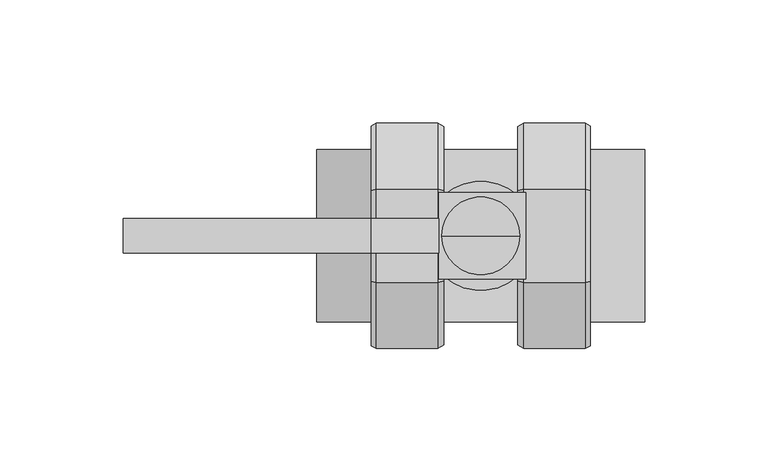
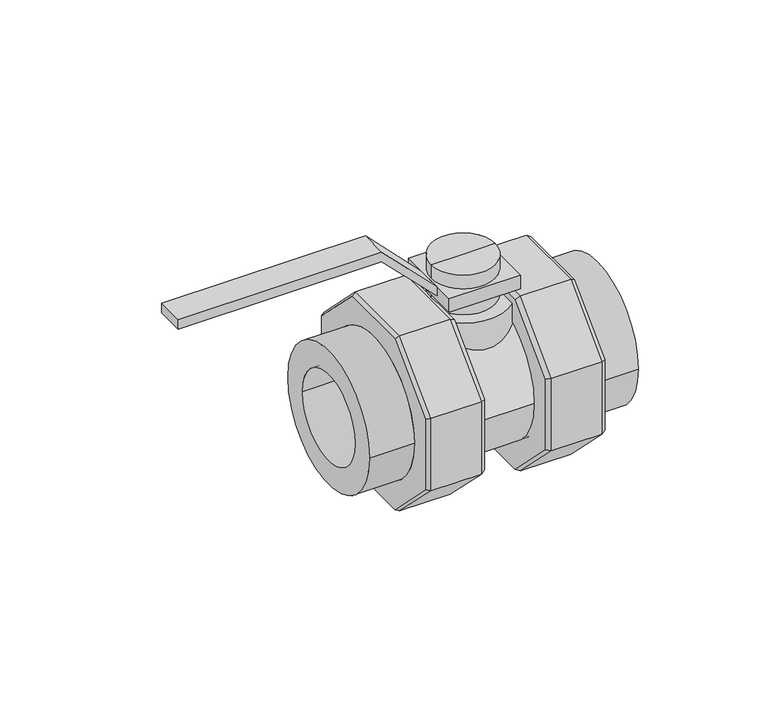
"""IFC4 building model written with IfcOpenShell, lengths in millimetres: valve geometry, EGB_VASEN_ PPR_Valvula de bola doble union WXR800 : Válvula de bola doble unión WXR800."""

from ifc_helpers import new_model, si_unit, point, frame, origin, origin_2d, place, context, project, spatial, polyline, circle_curve, trimmed, segment, composite_curve, outline, extrude, source, transform, mapped, element, save
from ifc_brep_helpers import plane_surface, cylinder_surface, revolved_surface, advanced_brep


def valve_12091b4a(model_context):
    return source(origin(), model_context, "Body", "SolidModel", [
        advanced_brep(
        [(42.3333333, 18.9502705, 45.75), (42.3333333, 45.75, 18.9502705), (17.4084379, 45.75, 18.9502705), (17.4084379, 18.9502705, 45.75), (17.4084379, -18.9502705, 45.75), (42.3333333, -18.9502705, 45.75), (42.3333333, -18.9502705, -45.75), (42.3333333, -45.75, -18.9502705), (17.4084379, -45.75, -18.9502705), (17.4084379, -18.9502705, -45.75), (17.4084379, 18.9502705, -45.75), (42.3333333, 18.9502705, -45.75), (17.4084379, -45.75, 18.9502705), (42.3333333, -45.75, 18.9502705), (17.4084379, 45.75, -18.9502705), (42.3333333, 45.75, -18.9502705), (44.3333333, 18.4719779, 44.5952995), (44.3333333, -18.4719779, 44.5952995), (44.3333333, -44.5952995, 18.4719779), (44.3333333, -44.5952995, -18.4719779), (44.3333333, -18.4719779, -44.5952995), (44.3333333, 18.4719779, -44.5952995), (44.3333333, 44.5952995, -18.4719779), (44.3333333, 44.5952995, 18.4719779), (44.3333333, 35.0, 0.0), (44.3333333, -35.0, 0.0), (14.9589481, 44.3357864, 18.364484), (14.9589481, 44.3357864, -18.364484), (14.9589481, 18.364484, -44.3357864), (14.9589481, -18.364484, -44.3357864), (14.9589481, -44.3357864, -18.364484), (14.9589481, -44.3357864, 18.364484), (14.9589481, -18.364484, 44.3357864), (14.9589481, 18.364484, 44.3357864), (14.9589481, -35.0, 0.0), (14.9589481, 35.0, 0.0)],
        [
            (0, 1),
            (1, 2),
            (2, 3),
            (3, 0),
            (3, 4),
            (4, 5),
            (5, 0),
            (6, 7),
            (7, 8),
            (8, 9),
            (9, 6),
            (9, 10),
            (10, 11),
            (11, 6),
            (4, 12),
            (12, 13),
            (13, 5),
            (12, 8),
            (7, 13),
            (10, 14),
            (14, 15),
            (15, 11),
            (16, 17),
            (17, 18),
            (18, 19),
            (19, 20),
            (20, 21),
            (21, 22),
            (22, 23),
            (23, 16),
            (24, 25, circle_curve(frame((44.3333333, 0.0, 0.0), z_axis=(-1.0, 0.0, 0.0), x_axis=(0.0, -1.0, 0.0)), 35.0)),
            (25, 24, circle_curve(frame((44.3333333, 0.0, 0.0), z_axis=(-1.0, 0.0, 0.0), x_axis=(0.0, -1.0, 0.0)), 35.0)),
            (14, 2),
            (1, 15),
            (26, 27),
            (27, 28),
            (28, 29),
            (29, 30),
            (30, 31),
            (31, 32),
            (32, 33),
            (33, 26),
            (34, 35, circle_curve(frame((14.9589481, 0.0, 0.0), z_axis=(1.0, 0.0, 0.0), x_axis=(0.0, -1.0, 0.0)), 35.0)),
            (35, 34, circle_curve(frame((14.9589481, 0.0, 0.0), z_axis=(1.0, 0.0, 0.0), x_axis=(0.0, -1.0, 0.0)), 35.0)),
            (2, 26),
            (33, 3),
            (23, 1),
            (0, 16),
            (32, 4),
            (5, 17),
            (8, 30),
            (29, 9),
            (19, 7),
            (6, 20),
            (28, 10),
            (11, 21),
            (31, 12),
            (13, 18),
            (27, 14),
            (15, 22),
            (25, 34),
            (35, 24),
        ],
        [
            plane_surface(frame((44.3333333, 45.75, 18.9502705), z_axis=(0.0, 0.7071067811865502, 0.7071067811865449), x_axis=(0.0, -0.7071067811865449, 0.7071067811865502))),
            plane_surface(frame((44.3333333, 18.9502705, 45.75), z_axis=(0.0, 0.0, 1.0), x_axis=(0.0, -1.0, 0.0))),
            plane_surface(frame((44.3333333, -45.75, -18.9502705), z_axis=(0.0, -0.7071067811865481, -0.707106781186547), x_axis=(0.0, 0.707106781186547, -0.7071067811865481))),
            plane_surface(frame((44.3333333, -18.9502705, -45.75), z_axis=(0.0, 0.0, -1.0), x_axis=(0.0, 1.0, 0.0))),
            plane_surface(frame((44.3333333, -18.9502705, 45.75), z_axis=(0.0, -0.7071067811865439, 0.7071067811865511), x_axis=(0.0, -0.7071067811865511, -0.7071067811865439))),
            plane_surface(frame((44.3333333, -45.75, 18.9502705), z_axis=(0.0, -1.0, 0.0), x_axis=(0.0, 0.0, -1.0))),
            plane_surface(frame((44.3333333, 18.9502705, -45.75), z_axis=(0.0, 0.7071067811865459, -0.7071067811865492), x_axis=(0.0, 0.7071067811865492, 0.7071067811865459))),
            plane_surface(frame((44.3333333, 0.0, 0.0), z_axis=(1.0, 0.0, 0.0), x_axis=(0.0, 0.0, 1.0))),
            plane_surface(frame((44.3333333, 45.75, -18.9502705), z_axis=(0.0, 1.0, 0.0), x_axis=(0.0, 0.0, 1.0))),
            plane_surface(frame((14.9589481, 45.75, -18.9502705), z_axis=(-1.0, 0.0, 0.0), x_axis=(0.0, 0.0, 1.0))),
            plane_surface(frame((14.9589481, 44.3357864, 18.364484), z_axis=(-0.49999999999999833, 0.6123724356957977, 0.6123724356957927), x_axis=(0.0, -0.7071067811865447, 0.7071067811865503))),
            plane_surface(frame((42.3333333, 45.75, 18.9502705), z_axis=(0.49999999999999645, 0.6123724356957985, 0.6123724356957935), x_axis=(0.0, -0.7071067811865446, 0.7071067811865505))),
            plane_surface(frame((14.9589481, 18.364484, 44.3357864), z_axis=(-0.4999999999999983, 0.0, 0.8660254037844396), x_axis=(0.0, -1.0, 0.0))),
            plane_surface(frame((42.3333333, 18.9502705, 45.75), z_axis=(0.4999999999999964, 0.0, 0.8660254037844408), x_axis=(0.0, -1.0, 0.0))),
            plane_surface(frame((14.9589481, -44.3357864, -18.364484), z_axis=(-0.49999999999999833, -0.6123724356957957, -0.6123724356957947), x_axis=(0.0, 0.7071067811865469, -0.7071067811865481))),
            plane_surface(frame((42.3333333, -45.75, -18.9502705), z_axis=(0.49999999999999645, -0.6123724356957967, -0.6123724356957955), x_axis=(0.0, 0.7071067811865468, -0.7071067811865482))),
            plane_surface(frame((14.9589481, -18.364484, -44.3357864), z_axis=(-0.49999999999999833, 0.0, -0.8660254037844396), x_axis=(0.0, 1.0, 0.0))),
            plane_surface(frame((42.3333333, -18.9502705, -45.75), z_axis=(0.49999999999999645, 0.0, -0.8660254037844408), x_axis=(0.0, 1.0, 0.0))),
            plane_surface(frame((14.9589481, -18.364484, 44.3357864), z_axis=(-0.4999999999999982, -0.6123724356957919, 0.6123724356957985), x_axis=(0.0, -0.7071067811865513, -0.7071067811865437))),
            plane_surface(frame((42.3333333, -18.9502705, 45.75), z_axis=(0.4999999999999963, -0.6123724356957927, 0.6123724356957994), x_axis=(0.0, -0.7071067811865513, -0.7071067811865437))),
            plane_surface(frame((14.9589481, -44.3357864, 18.364484), z_axis=(-0.49999999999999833, -0.8660254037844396, 0.0), x_axis=(0.0, 0.0, -1.0))),
            plane_surface(frame((42.3333333, -45.75, 18.9502705), z_axis=(0.49999999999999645, -0.8660254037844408, 0.0), x_axis=(0.0, 0.0, -1.0))),
            plane_surface(frame((14.9589481, 18.364484, -44.3357864), z_axis=(-0.49999999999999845, 0.6123724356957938, -0.6123724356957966), x_axis=(0.0, 0.7071067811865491, 0.7071067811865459))),
            plane_surface(frame((42.3333333, 18.9502705, -45.75), z_axis=(0.49999999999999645, 0.6123724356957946, -0.6123724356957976), x_axis=(0.0, 0.7071067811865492, 0.7071067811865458))),
            plane_surface(frame((14.9589481, 44.3357864, -18.364484), z_axis=(-0.49999999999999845, 0.8660254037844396, 0.0), x_axis=(0.0, 0.0, 1.0))),
            plane_surface(frame((42.3333333, 45.75, -18.9502705), z_axis=(0.4999999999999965, 0.8660254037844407, 0.0), x_axis=(0.0, 0.0, 1.0))),
            revolved_surface(polyline([(14.9589481, -35.0, 0.0), (44.3333333, -35.0, 0.0)]), (44.3333333, 0.0, 0.0), (-1.0, 0.0, 0.0)),
        ],
        [
            (0, [[1, 2, 3, 4]]),
            (1, [[5, 6, 7, -4]]),
            (2, [[8, 9, 10, 11]]),
            (3, [[12, 13, 14, -11]]),
            (4, [[15, 16, 17, -6]]),
            (5, [[18, -9, 19, -16]]),
            (6, [[20, 21, 22, -13]]),
            (7, [[23, 24, 25, 26, 27, 28, 29, 30], [31, 32]]),
            (8, [[33, -2, 34, -21]]),
            (9, [[35, 36, 37, 38, 39, 40, 41, 42], [43, 44]]),
            (10, [[-3, 45, -42, 46]]),
            (11, [[-30, 47, -1, 48]]),
            (12, [[-41, 49, -5, -46]]),
            (13, [[-7, 50, -23, -48]]),
            (14, [[-10, 51, -38, 52]]),
            (15, [[-26, 53, -8, 54]]),
            (16, [[-37, 55, -12, -52]]),
            (17, [[-14, 56, -27, -54]]),
            (18, [[-40, 57, -15, -49]]),
            (19, [[-17, 58, -24, -50]]),
            (20, [[-18, -57, -39, -51]]),
            (21, [[-25, -58, -19, -53]]),
            (22, [[-36, 59, -20, -55]]),
            (23, [[-22, 60, -28, -56]]),
            (24, [[-33, -59, -35, -45]]),
            (25, [[-29, -60, -34, -47]]),
            (26, [[-32, 61, -44, 62]]),
            (26, [[-43, -61, -31, -62]]),
        ],
    ),
        advanced_brep(
        [(-42.3333333, 18.9502705, 45.75), (-17.4084379, 18.9502705, 45.75), (-17.4084379, 45.75, 18.9502705), (-42.3333333, 45.75, 18.9502705), (-42.3333333, -18.9502705, 45.75), (-17.4084379, -18.9502705, 45.75), (-42.3333333, -18.9502705, -45.75), (-17.4084379, -18.9502705, -45.75), (-17.4084379, -45.75, -18.9502705), (-42.3333333, -45.75, -18.9502705), (-42.3333333, 18.9502705, -45.75), (-17.4084379, 18.9502705, -45.75), (-42.3333333, -45.75, 18.9502705), (-17.4084379, -45.75, 18.9502705), (-42.3333333, 45.75, -18.9502705), (-17.4084379, 45.75, -18.9502705), (-44.3333333, 18.4719779, 44.5952995), (-44.3333333, 44.5952995, 18.4719779), (-44.3333333, 44.5952995, -18.4719779), (-44.3333333, 18.4719779, -44.5952995), (-44.3333333, -18.4719779, -44.5952995), (-44.3333333, -44.5952995, -18.4719779), (-44.3333333, -44.5952995, 18.4719779), (-44.3333333, -18.4719779, 44.5952995), (-44.3333333, 35.0, 0.0), (-44.3333333, -35.0, 0.0), (-14.9589481, 44.3357864, 18.364484), (-14.9589481, 18.364484, 44.3357864), (-14.9589481, -18.364484, 44.3357864), (-14.9589481, -44.3357864, 18.364484), (-14.9589481, -44.3357864, -18.364484), (-14.9589481, -18.364484, -44.3357864), (-14.9589481, 18.364484, -44.3357864), (-14.9589481, 44.3357864, -18.364484), (-14.9589481, -35.0, 0.0), (-14.9589481, 35.0, 0.0)],
        [
            (0, 1),
            (1, 2),
            (2, 3),
            (3, 0),
            (0, 4),
            (4, 5),
            (5, 1),
            (6, 7),
            (7, 8),
            (8, 9),
            (9, 6),
            (6, 10),
            (10, 11),
            (11, 7),
            (4, 12),
            (12, 13),
            (13, 5),
            (12, 9),
            (8, 13),
            (10, 14),
            (14, 15),
            (15, 11),
            (16, 17),
            (17, 18),
            (18, 19),
            (19, 20),
            (20, 21),
            (21, 22),
            (22, 23),
            (23, 16),
            (24, 25, circle_curve(frame((-44.3333333, 0.0, 0.0), z_axis=(1.0, 0.0, 0.0), x_axis=(0.0, -1.0, 0.0)), 35.0)),
            (25, 24, circle_curve(frame((-44.3333333, 0.0, 0.0), z_axis=(1.0, 0.0, 0.0), x_axis=(0.0, -1.0, 0.0)), 35.0)),
            (14, 3),
            (2, 15),
            (26, 27),
            (27, 28),
            (28, 29),
            (29, 30),
            (30, 31),
            (31, 32),
            (32, 33),
            (33, 26),
            (34, 35, circle_curve(frame((-14.9589481, 0.0, 0.0), z_axis=(-1.0, 0.0, 0.0), x_axis=(0.0, -1.0, 0.0)), 35.0)),
            (35, 34, circle_curve(frame((-14.9589481, 0.0, 0.0), z_axis=(-1.0, 0.0, 0.0), x_axis=(0.0, -1.0, 0.0)), 35.0)),
            (1, 27),
            (26, 2),
            (16, 0),
            (3, 17),
            (5, 28),
            (23, 4),
            (7, 31),
            (30, 8),
            (20, 6),
            (9, 21),
            (11, 32),
            (19, 10),
            (13, 29),
            (22, 12),
            (15, 33),
            (18, 14),
            (24, 35),
            (34, 25),
        ],
        [
            plane_surface(frame((-44.3333333, 45.75, 18.9502705), z_axis=(0.0, 0.7071067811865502, 0.7071067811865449), x_axis=(0.0, -0.7071067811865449, 0.7071067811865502))),
            plane_surface(frame((-44.3333333, 18.9502705, 45.75), z_axis=(0.0, 0.0, 1.0), x_axis=(0.0, -1.0, 0.0))),
            plane_surface(frame((-44.3333333, -45.75, -18.9502705), z_axis=(0.0, -0.7071067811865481, -0.707106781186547), x_axis=(0.0, 0.707106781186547, -0.7071067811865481))),
            plane_surface(frame((-44.3333333, -18.9502705, -45.75), z_axis=(0.0, 0.0, -1.0), x_axis=(0.0, 1.0, 0.0))),
            plane_surface(frame((-44.3333333, -18.9502705, 45.75), z_axis=(0.0, -0.7071067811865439, 0.7071067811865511), x_axis=(0.0, -0.7071067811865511, -0.7071067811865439))),
            plane_surface(frame((-44.3333333, -45.75, 18.9502705), z_axis=(0.0, -1.0, 0.0), x_axis=(0.0, 0.0, -1.0))),
            plane_surface(frame((-44.3333333, 18.9502705, -45.75), z_axis=(0.0, 0.7071067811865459, -0.7071067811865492), x_axis=(0.0, 0.7071067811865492, 0.7071067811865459))),
            plane_surface(frame((-44.3333333, 0.0, 0.0), z_axis=(-1.0, 0.0, 0.0), x_axis=(0.0, 0.0, 1.0))),
            plane_surface(frame((-44.3333333, 45.75, -18.9502705), z_axis=(0.0, 1.0, 0.0), x_axis=(0.0, 0.0, 1.0))),
            plane_surface(frame((-14.9589481, 45.75, -18.9502705), z_axis=(1.0, 0.0, 0.0), x_axis=(0.0, 0.0, 1.0))),
            plane_surface(frame((-14.9589481, 44.3357864, 18.364484), z_axis=(0.49999999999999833, 0.6123724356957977, 0.6123724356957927), x_axis=(0.0, -0.7071067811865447, 0.7071067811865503))),
            plane_surface(frame((-42.3333333, 45.75, 18.9502705), z_axis=(-0.49999999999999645, 0.6123724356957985, 0.6123724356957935), x_axis=(0.0, -0.7071067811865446, 0.7071067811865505))),
            plane_surface(frame((-14.9589481, 18.364484, 44.3357864), z_axis=(0.4999999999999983, 0.0, 0.8660254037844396), x_axis=(0.0, -1.0, 0.0))),
            plane_surface(frame((-42.3333333, 18.9502705, 45.75), z_axis=(-0.4999999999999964, 0.0, 0.8660254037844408), x_axis=(0.0, -1.0, 0.0))),
            plane_surface(frame((-14.9589481, -44.3357864, -18.364484), z_axis=(0.49999999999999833, -0.6123724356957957, -0.6123724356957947), x_axis=(0.0, 0.7071067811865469, -0.7071067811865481))),
            plane_surface(frame((-42.3333333, -45.75, -18.9502705), z_axis=(-0.49999999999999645, -0.6123724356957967, -0.6123724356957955), x_axis=(0.0, 0.7071067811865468, -0.7071067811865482))),
            plane_surface(frame((-14.9589481, -18.364484, -44.3357864), z_axis=(0.49999999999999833, 0.0, -0.8660254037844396), x_axis=(0.0, 1.0, 0.0))),
            plane_surface(frame((-42.3333333, -18.9502705, -45.75), z_axis=(-0.49999999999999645, 0.0, -0.8660254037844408), x_axis=(0.0, 1.0, 0.0))),
            plane_surface(frame((-14.9589481, -18.364484, 44.3357864), z_axis=(0.4999999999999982, -0.6123724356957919, 0.6123724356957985), x_axis=(0.0, -0.7071067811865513, -0.7071067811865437))),
            plane_surface(frame((-42.3333333, -18.9502705, 45.75), z_axis=(-0.4999999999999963, -0.6123724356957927, 0.6123724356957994), x_axis=(0.0, -0.7071067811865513, -0.7071067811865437))),
            plane_surface(frame((-14.9589481, -44.3357864, 18.364484), z_axis=(0.49999999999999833, -0.8660254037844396, 0.0), x_axis=(0.0, 0.0, -1.0))),
            plane_surface(frame((-42.3333333, -45.75, 18.9502705), z_axis=(-0.49999999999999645, -0.8660254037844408, 0.0), x_axis=(0.0, 0.0, -1.0))),
            plane_surface(frame((-14.9589481, 18.364484, -44.3357864), z_axis=(0.49999999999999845, 0.6123724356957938, -0.6123724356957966), x_axis=(0.0, 0.7071067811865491, 0.7071067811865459))),
            plane_surface(frame((-42.3333333, 18.9502705, -45.75), z_axis=(-0.49999999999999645, 0.6123724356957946, -0.6123724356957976), x_axis=(0.0, 0.7071067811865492, 0.7071067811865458))),
            plane_surface(frame((-14.9589481, 44.3357864, -18.364484), z_axis=(0.49999999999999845, 0.8660254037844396, 0.0), x_axis=(0.0, 0.0, 1.0))),
            plane_surface(frame((-42.3333333, 45.75, -18.9502705), z_axis=(-0.4999999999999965, 0.8660254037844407, 0.0), x_axis=(0.0, 0.0, 1.0))),
            revolved_surface(polyline([(-14.9589481, -35.0, 0.0), (-44.3333333, -35.0, 0.0)]), (-44.3333333, 0.0, 0.0), (1.0, 0.0, 0.0)),
        ],
        [
            (0, [[1, 2, 3, 4]]),
            (1, [[-1, 5, 6, 7]]),
            (2, [[8, 9, 10, 11]]),
            (3, [[-8, 12, 13, 14]]),
            (4, [[-6, 15, 16, 17]]),
            (5, [[-16, 18, -10, 19]]),
            (6, [[-13, 20, 21, 22]]),
            (7, [[23, 24, 25, 26, 27, 28, 29, 30], [31, 32]]),
            (8, [[-21, 33, -3, 34]]),
            (9, [[35, 36, 37, 38, 39, 40, 41, 42], [43, 44]]),
            (10, [[45, -35, 46, -2]]),
            (11, [[47, -4, 48, -23]]),
            (12, [[-45, -7, 49, -36]]),
            (13, [[-47, -30, 50, -5]]),
            (14, [[51, -39, 52, -9]]),
            (15, [[53, -11, 54, -27]]),
            (16, [[-51, -14, 55, -40]]),
            (17, [[-53, -26, 56, -12]]),
            (18, [[-49, -17, 57, -37]]),
            (19, [[-50, -29, 58, -15]]),
            (20, [[-52, -38, -57, -19]]),
            (21, [[-54, -18, -58, -28]]),
            (22, [[-55, -22, 59, -41]]),
            (23, [[-56, -25, 60, -20]]),
            (24, [[-46, -42, -59, -34]]),
            (25, [[-48, -33, -60, -24]]),
            (26, [[61, -43, 62, -31]]),
            (26, [[-61, -32, -62, -44]]),
        ],
    ),
        advanced_brep(
        [(0.0, 0.0, 0.0), (-22.1666667, 0.0, 0.0), (22.1666667, 0.0, 0.0), (15.7786779, 0.0, 62.25), (-15.7786779, 0.0, 62.25), (0.0, 0.0, 62.25), (15.7786779, 0.0, 41.5), (-15.7786779, 0.0, 41.5), (22.1666667, 0.0, 41.5), (-22.1666667, 0.0, 41.5)],
        [
            (0, 1),
            (1, 2, circle_curve(frame((0.0, 0.0, 0.0), z_axis=(0.0, 0.0, -1.0), x_axis=(-1.0, 0.0, 0.0)), 22.1666667)),
            (2, 0),
            (2, 1, circle_curve(frame((0.0, 0.0, 0.0), z_axis=(0.0, 0.0, -1.0), x_axis=(-1.0, 0.0, 0.0)), 22.1666667)),
            (3, 4, circle_curve(frame((0.0, 0.0, 62.25), z_axis=(0.0, 0.0, 1.0), x_axis=(-1.0, 0.0, 0.0)), 15.7786779)),
            (4, 5),
            (5, 3),
            (4, 3, circle_curve(frame((0.0, 0.0, 62.25), z_axis=(0.0, 0.0, 1.0), x_axis=(-1.0, 0.0, 0.0)), 15.7786779)),
            (6, 7, circle_curve(frame((0.0, 0.0, 41.5), z_axis=(0.0, 0.0, 1.0), x_axis=(-1.0, 0.0, 0.0)), 15.7786779)),
            (7, 4),
            (3, 6),
            (7, 6, circle_curve(frame((0.0, 0.0, 41.5), z_axis=(0.0, 0.0, 1.0), x_axis=(-1.0, 0.0, 0.0)), 15.7786779)),
            (8, 9, circle_curve(frame((0.0, 0.0, 41.5), z_axis=(0.0, 0.0, 1.0), x_axis=(-1.0, 0.0, 0.0)), 22.1666667)),
            (9, 7),
            (6, 8),
            (9, 8, circle_curve(frame((0.0, 0.0, 41.5), z_axis=(0.0, 0.0, 1.0), x_axis=(-1.0, 0.0, 0.0)), 22.1666667)),
            (1, 9),
            (8, 2),
        ],
        [
            plane_surface(frame((0.0, 0.0, 0.0), z_axis=(0.0, 0.0, -1.0), x_axis=(-1.0, 0.0, 0.0))),
            plane_surface(frame((0.0, 0.0, 62.25), z_axis=(0.0, 0.0, 1.0), x_axis=(-1.0, 0.0, 0.0))),
            cylinder_surface(frame((0.0, 0.0, 94.25), z_axis=(0.0, 0.0, -1.0), x_axis=(-1.0, 0.0, 0.0)), 15.7786779),
            plane_surface(frame((0.0, 0.0, 41.5), z_axis=(0.0, 0.0, 1.0), x_axis=(-1.0, 0.0, 0.0))),
            cylinder_surface(frame((0.0, 0.0, 94.25), z_axis=(0.0, 0.0, -1.0), x_axis=(-1.0, 0.0, 0.0)), 22.1666667),
        ],
        [
            (0, [[1, 2, 3]]),
            (0, [[-3, 4, -1]]),
            (1, [[5, 6, 7]]),
            (1, [[8, -7, -6]]),
            (2, [[9, 10, -5, 11]]),
            (2, [[12, -11, -8, -10]]),
            (3, [[13, 14, -9, 15]]),
            (3, [[16, -15, -12, -14]]),
            (4, [[-2, 17, -13, 18]]),
            (4, [[-4, -18, -16, -17]]),
        ],
    ),
        extrude(outline(composite_curve([segment(trimmed(circle_curve(origin_2d(), 35.0), [point((-35.0, 0.0))], [point((35.0, 0.0))], False, "CARTESIAN"), True, "CONTINUOUS"), segment(trimmed(circle_curve(origin_2d(), 35.0), [point((35.0, 0.0))], [point((-35.0, 0.0))], False, "CARTESIAN"), True, "CONTINUOUS")], self_intersect=False)), frame((-18.2431733, 0.0, 0.0), z_axis=(1.0, 0.0, 0.0), x_axis=(0.0, 1.0, 0.0)), (0.0, 0.0, 1.0), 36.4863466),
        extrude(outline(composite_curve([segment(trimmed(circle_curve(origin_2d(), 35.0), [point((-35.0, 0.0))], [point((35.0, 0.0))], False, "CARTESIAN"), True, "CONTINUOUS"), segment(trimmed(circle_curve(origin_2d(), 35.0), [point((35.0, 0.0))], [point((-35.0, 0.0))], False, "CARTESIAN"), True, "CONTINUOUS")], self_intersect=False), holes=[composite_curve([segment(trimmed(circle_curve(origin_2d(), 22.5), [point((-22.5, 0.0))], [point((22.5, 0.0))], True, "CARTESIAN"), True, "CONTINUOUS"), segment(trimmed(circle_curve(origin_2d(), 22.5), [point((22.5, 0.0))], [point((-22.5, 0.0))], True, "CARTESIAN"), True, "CONTINUOUS")], self_intersect=False)]), frame((-66.5, 0.0, 0.0), z_axis=(1.0, 0.0, 0.0), x_axis=(0.0, 1.0, 0.0)), (0.0, 0.0, 1.0), 22.1666667),
        extrude(outline(composite_curve([segment(trimmed(circle_curve(origin_2d(), 35.0), [point((-35.0, 0.0))], [point((35.0, 0.0))], False, "CARTESIAN"), True, "CONTINUOUS"), segment(trimmed(circle_curve(origin_2d(), 35.0), [point((35.0, 0.0))], [point((-35.0, 0.0))], False, "CARTESIAN"), True, "CONTINUOUS")], self_intersect=False), holes=[composite_curve([segment(trimmed(circle_curve(origin_2d(), 22.5), [point((-22.5, 0.0))], [point((22.5, 0.0))], True, "CARTESIAN"), True, "CONTINUOUS"), segment(trimmed(circle_curve(origin_2d(), 22.5), [point((22.5, 0.0))], [point((-22.5, 0.0))], True, "CARTESIAN"), True, "CONTINUOUS")], self_intersect=False)]), frame((44.3333333, 0.0, 0.0), z_axis=(1.0, 0.0, 0.0), x_axis=(0.0, 1.0, 0.0)), (0.0, 0.0, 1.0), 22.1666667),
        extrude(outline(polyline([(55.3333333, -17.0084475), (83.0, -44.3333333), (83.0, -145.0), (78.0, -145.0), (78.0, -44.3333333), (50.75, -17.0084475), (55.3333333, -17.0084475)])), frame((0.0, -7.0, 0.0), z_axis=(0.0, 1.0, 0.0), x_axis=(0.0, 0.0, 1.0)), (0.0, 0.0, 1.0), 14.0),
        extrude(outline(polyline([(18.3248858, -17.5), (-17.0084475, -17.5), (-17.0084475, 17.5), (18.3248858, 17.5), (18.3248858, -17.5)])), frame((0.0, 0.0, 48.4166667), z_axis=(0.0, 0.0, 1.0), x_axis=(1.0, 0.0, 0.0)), (0.0, 0.0, 1.0), 6.9166667),
        extrude(outline(composite_curve([segment(trimmed(circle_curve(origin_2d(), 18.0), [point((-18.0, 0.0))], [point((18.0, 0.0))], False, "CARTESIAN"), True, "CONTINUOUS"), segment(trimmed(circle_curve(origin_2d(), 18.0), [point((18.0, 0.0))], [point((-18.0, 0.0))], False, "CARTESIAN"), True, "CONTINUOUS")], self_intersect=False)), frame((-44.3333333, 0.0, 0.0), z_axis=(1.0, 0.0, 0.0), x_axis=(0.0, 1.0, 0.0)), (0.0, 0.0, 1.0), 26.09016),
        extrude(outline(composite_curve([segment(trimmed(circle_curve(origin_2d(), 18.0), [point((-18.0, 0.0))], [point((18.0, 0.0))], False, "CARTESIAN"), True, "CONTINUOUS"), segment(trimmed(circle_curve(origin_2d(), 18.0), [point((18.0, 0.0))], [point((-18.0, 0.0))], False, "CARTESIAN"), True, "CONTINUOUS")], self_intersect=False)), frame((18.2431733, 0.0, 0.0), z_axis=(1.0, 0.0, 0.0), x_axis=(0.0, 1.0, 0.0)), (0.0, 0.0, 1.0), 26.09016),
    ])


if __name__ == "__main__":
    model = new_model("IFC4")
    model_context = context("Model", 3, world=origin())
    ifc_project = project(units=[si_unit("LENGTHUNIT", "METRE", prefix="MILLI")], contexts=[model_context])
    site = spatial("IfcSite", under=ifc_project)
    building = spatial("IfcBuilding", under=site)
    placement = place(None, origin())
    valve_shape = valve_12091b4a(model_context)
    element("IfcValve", 1, ObjectType="EGB_VASEN_ PPR_Valvula de bola doble union WXR800 : Válvula de bola doble unión WXR800", at=placement, inside=building, context=model_context, shape_type="MappedRepresentation", body=[
        mapped(valve_shape, transform((0.0, 0.0, 0.0), x_axis=(1.0, 0.0, 0.0), y_axis=(0.0, 1.0, 0.0), z_axis=(0.0, 0.0, 1.0))),
    ])
    save(model, "model.ifc")
